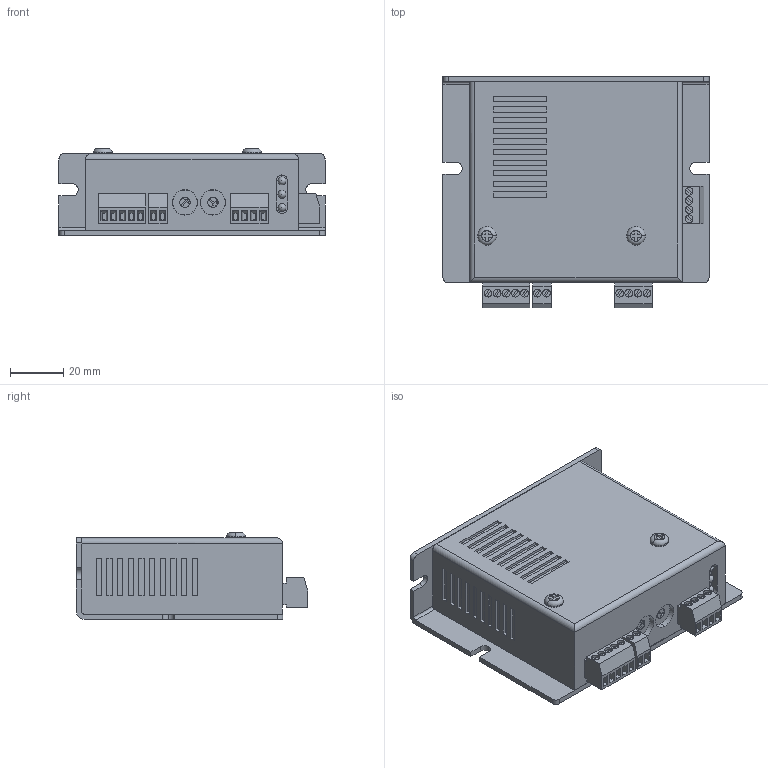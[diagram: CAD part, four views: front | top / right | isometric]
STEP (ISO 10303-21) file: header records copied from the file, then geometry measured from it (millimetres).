
FILE_DESCRIPTION (( 'STEP AP214' ), '1' );
FILE_NAME ('EXD5014CE.STEP', '2011-09-22T01:27:34', ( 'extion' ), ( '' ), 'SwSTEP 2.0', 'SolidWorks 2010', '' );
FILE_SCHEMA (( 'AUTOMOTIVE_DESIGN' ));
Length unit declared in the file: millimetre
Products named in the file (1): EXD5014CE
Bounding box: 100 x 87 x 32.6 mm (x, y, z)
Volume: 196549.6 mm3; surface area: 30601.5 mm2
Topology: 1 solids, 1 shells, 559 faces, 1382 edges, 894 vertices
Faces by surface type: plane 460, cylinder 92, torus 4, sphere 3
Entity records: 18452 total; most frequent: CARTESIAN_POINT 2875, ORIENTED_EDGE 2746, DIRECTION 2721, EDGE_CURVE 1373, LINE 1109, VECTOR 1109, VERTEX_POINT 888, AXIS2_PLACEMENT_3D 806
